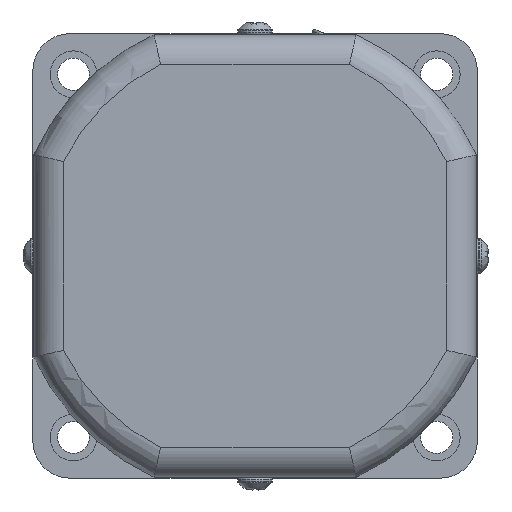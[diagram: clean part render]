
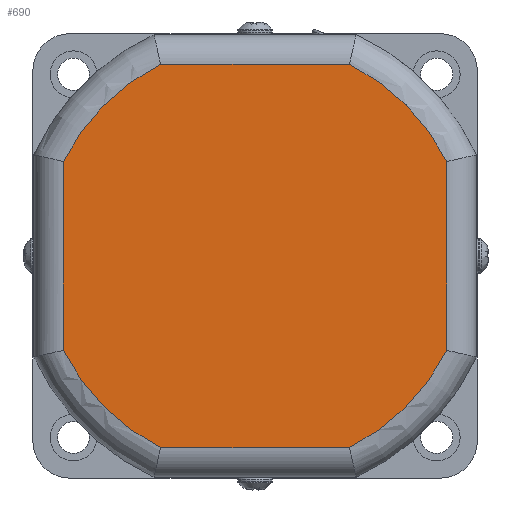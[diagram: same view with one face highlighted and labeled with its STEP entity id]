
A CAD part, left-side view. The second image highlights one B-rep face of the part: STEP entity #690.
In plain terms, the highlighted planar face has unit normal (-1, 0, 0).
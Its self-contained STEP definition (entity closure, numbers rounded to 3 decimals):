
#316=CARTESIAN_POINT('',(-23.,-19.108,-38.8));
#317=VERTEX_POINT('',#316);
#342=CARTESIAN_POINT('',(-23.,-38.8,-19.108));
#343=VERTEX_POINT('',#342);
#361=CARTESIAN_POINT('',(-23.,0.,0.));
#362=DIRECTION('',(1.0,0.,0.));
#363=DIRECTION('',(0.,-0.707,-0.707));
#364=AXIS2_PLACEMENT_3D('',#361,#362,#363);
#365=CIRCLE('',#364,43.25);
#366=EDGE_CURVE('',#343,#317,#365,.T.);
#376=CARTESIAN_POINT('',(-23.,-38.8,19.108));
#377=VERTEX_POINT('',#376);
#395=CARTESIAN_POINT('',(-23.,-38.8,19.108));
#396=DIRECTION('',(0.0,0.0,-1.0));
#397=VECTOR('',#396,38.216);
#398=LINE('',#395,#397);
#399=EDGE_CURVE('',#377,#343,#398,.T.);
#413=CARTESIAN_POINT('',(-23.,19.108,-38.8));
#414=VERTEX_POINT('',#413);
#439=CARTESIAN_POINT('',(-23.,-19.108,-38.8));
#440=DIRECTION('',(0.0,1.0,0.0));
#441=VECTOR('',#440,38.216);
#442=LINE('',#439,#441);
#443=EDGE_CURVE('',#317,#414,#442,.T.);
#453=CARTESIAN_POINT('',(-23.,-19.108,38.8));
#454=VERTEX_POINT('',#453);
#472=CARTESIAN_POINT('',(-23.,0.,0.));
#473=DIRECTION('',(1.0,0.,0.));
#474=DIRECTION('',(0.,-0.707,0.707));
#475=AXIS2_PLACEMENT_3D('',#472,#473,#474);
#476=CIRCLE('',#475,43.25);
#477=EDGE_CURVE('',#454,#377,#476,.T.);
#495=CARTESIAN_POINT('',(-23.,38.8,-19.108));
#496=VERTEX_POINT('',#495);
#522=CARTESIAN_POINT('',(-23.,0.,0.));
#523=DIRECTION('',(1.,0.,0.));
#524=DIRECTION('',(0.,0.707,-0.707));
#525=AXIS2_PLACEMENT_3D('',#522,#523,#524);
#526=CIRCLE('',#525,43.25);
#527=EDGE_CURVE('',#414,#496,#526,.T.);
#537=CARTESIAN_POINT('',(-23.,19.108,38.8));
#538=VERTEX_POINT('',#537);
#556=CARTESIAN_POINT('',(-23.,19.108,38.8));
#557=DIRECTION('',(0.0,-1.0,0.0));
#558=VECTOR('',#557,38.216);
#559=LINE('',#556,#558);
#560=EDGE_CURVE('',#538,#454,#559,.T.);
#572=CARTESIAN_POINT('',(-23.,38.8,19.108));
#573=VERTEX_POINT('',#572);
#593=CARTESIAN_POINT('',(-23.,38.8,-19.108));
#594=DIRECTION('',(0.0,0.0,1.0));
#595=VECTOR('',#594,38.216);
#596=LINE('',#593,#595);
#597=EDGE_CURVE('',#496,#573,#596,.T.);
#608=CARTESIAN_POINT('',(-23.,0.,0.));
#609=DIRECTION('',(1.0,0.,0.));
#610=DIRECTION('',(0.,0.707,0.707));
#611=AXIS2_PLACEMENT_3D('',#608,#609,#610);
#612=CIRCLE('',#611,43.25);
#613=EDGE_CURVE('',#573,#538,#612,.T.);
#675=CARTESIAN_POINT('',(-23.,0.,0.));
#676=DIRECTION('',(1.0,0.0,0.0));
#677=DIRECTION('',(0.0,0.0,-1.0));
#678=AXIS2_PLACEMENT_3D('',#675,#676,#677);
#679=PLANE('',#678);
#680=ORIENTED_EDGE('',*,*,#597,.F.);
#681=ORIENTED_EDGE('',*,*,#527,.F.);
#682=ORIENTED_EDGE('',*,*,#443,.F.);
#683=ORIENTED_EDGE('',*,*,#366,.F.);
#684=ORIENTED_EDGE('',*,*,#399,.F.);
#685=ORIENTED_EDGE('',*,*,#477,.F.);
#686=ORIENTED_EDGE('',*,*,#560,.F.);
#687=ORIENTED_EDGE('',*,*,#613,.F.);
#688=EDGE_LOOP('',(#680,#681,#682,#683,#684,#685,#686,#687));
#689=FACE_OUTER_BOUND('',#688,.T.);
#690=ADVANCED_FACE('',(#689),#679,.F.);
